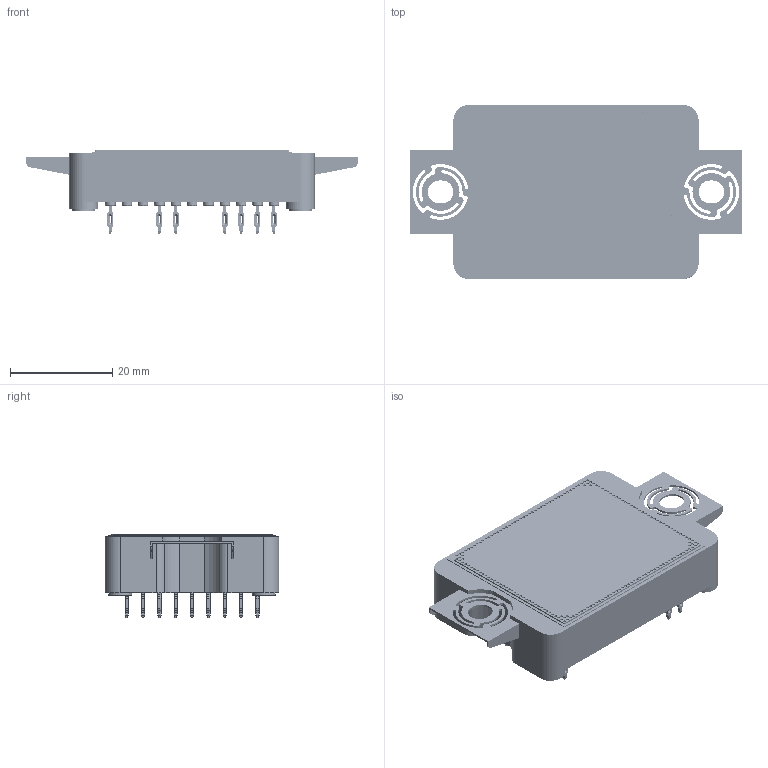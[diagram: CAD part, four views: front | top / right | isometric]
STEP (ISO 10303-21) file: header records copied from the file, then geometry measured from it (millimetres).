
FILE_DESCRIPTION (( 'STEP AP214' ), '1' );
FILE_NAME ('G3F18MT12FB4_SHARED.STEP', '2024-11-28T05:26:10', ( '' ), ( '' ), 'SwSTEP 2.0', 'SolidWorks 2023', '' );
FILE_SCHEMA (( 'AUTOMOTIVE_DESIGN' ));
Length unit declared in the file: millimetre
Products named in the file (10): PRESSFIT_ASM; COVER_4; HOLDER_4_2; HOLER-ASM_ASM; DBC-CERAMIC; SICPAK-DBC_ASM; HOLDER-ATTACH; G3F18MT12FB4_SHARED; PRESSFIT-PIN_5; DBC-TOP-CU
Assembly tree (51 placements, depth 3):
  G3F18MT12FB4_SHARED
    SICPAK-DBC_ASM
      DBC-CERAMIC
      DBC-TOP-CU
    HOLDER-ATTACH
    HOLER-ASM_ASM
      HOLDER_4_2  x22
    PRESSFIT_ASM
      PRESSFIT-PIN_5  x22
    COVER_4
Bounding box: 65 x 34 x 16.4 mm (x, y, z)
Volume: 5463.2 mm3; surface area: 14558.5 mm2
Topology: 69 solids, 69 shells, 2556 faces, 6818 edges, 4542 vertices
Faces by surface type: cylinder 1281, plane 825, bspline 354, cone 96
Entity records: 67242 total; most frequent: CARTESIAN_POINT 16603, DIRECTION 7952, ORIENTED_EDGE 7420, EDGE_CURVE 3710, AXIS2_PLACEMENT_3D 3399, VERTEX_POINT 2526, CIRCLE 2190, EDGE_LOOP 1996
